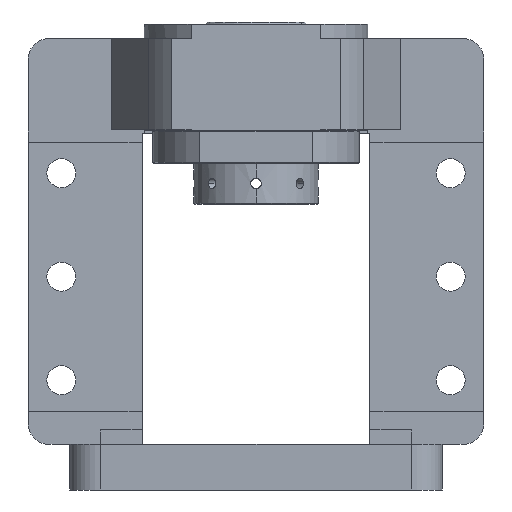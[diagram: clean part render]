
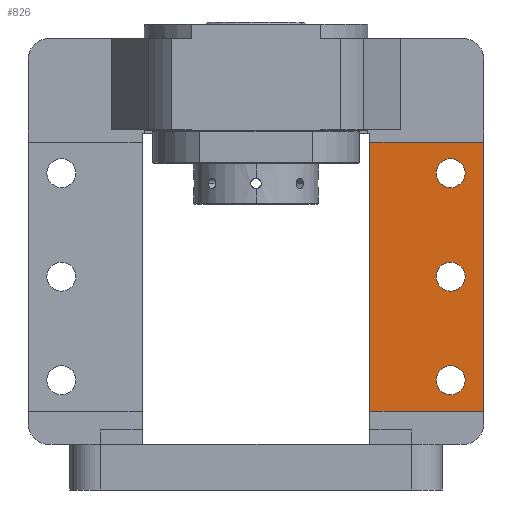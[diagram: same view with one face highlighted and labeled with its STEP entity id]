
A CAD part, front view. The second image highlights one B-rep face of the part: STEP entity #826.
In plain terms, the highlighted planar face has unit normal (0, -1, 0).
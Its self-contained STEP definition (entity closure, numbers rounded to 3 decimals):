
#61 = AXIS2_PLACEMENT_3D ( 'NONE', #20631, #8445, #22655 ) ;
#106 = EDGE_CURVE ( 'NONE', #10738, #21544, #974, .T. ) ;
#455 = CARTESIAN_POINT ( 'NONE',  ( 94., 0., 53. ) ) ;
#826 = ADVANCED_FACE ( 'NONE', ( #20380, #4146, #9540, #25128 ), #12662, .T. ) ;
#910 = ORIENTED_EDGE ( 'NONE', *, *, #106, .F. ) ;
#974 = CIRCLE ( 'NONE', #8853, 7. ) ;
#2500 = DIRECTION ( 'NONE',  ( 0., 0., -1. ) ) ;
#2602 = CIRCLE ( 'NONE', #22127, 7. ) ;
#2803 = VERTEX_POINT ( 'NONE', #14256 ) ;
#3205 = CARTESIAN_POINT ( 'NONE',  ( 55., 0., 168. ) ) ;
#3632 = CARTESIAN_POINT ( 'NONE',  ( 110., 0., 38. ) ) ;
#4146 = FACE_BOUND ( 'NONE', #11129, .T. ) ;
#4270 = CIRCLE ( 'NONE', #6314, 7. ) ;
#4284 = LINE ( 'NONE', #12100, #25269 ) ;
#4674 = EDGE_CURVE ( 'NONE', #21755, #2803, #6911, .T. ) ;
#5221 = DIRECTION ( 'NONE',  ( 0., -1., 0. ) ) ;
#5290 = AXIS2_PLACEMENT_3D ( 'NONE', #5679, #19906, #7712 ) ;
#5679 = CARTESIAN_POINT ( 'NONE',  ( 94., 0., 53. ) ) ;
#5763 = CARTESIAN_POINT ( 'NONE',  ( 94., 0., 103. ) ) ;
#6314 = AXIS2_PLACEMENT_3D ( 'NONE', #10873, #25107, #12922 ) ;
#6883 = EDGE_CURVE ( 'NONE', #14635, #26159, #13555, .T. ) ;
#6911 = CIRCLE ( 'NONE', #14820, 7. ) ;
#6918 = ORIENTED_EDGE ( 'NONE', *, *, #4674, .F. ) ;
#7515 = CIRCLE ( 'NONE', #5290, 7. ) ;
#7712 = DIRECTION ( 'NONE',  ( 0., 0., -1. ) ) ;
#7792 = DIRECTION ( 'NONE',  ( 0., 0., -1. ) ) ;
#7796 = EDGE_CURVE ( 'NONE', #16534, #9418, #4270, .T. ) ;
#8158 = VECTOR ( 'NONE', #20196, 1000. ) ;
#8319 = LINE ( 'NONE', #17261, #18503 ) ;
#8445 = DIRECTION ( 'NONE',  ( 0., -1., 0. ) ) ;
#8589 = CARTESIAN_POINT ( 'NONE',  ( 110., 0., 225. ) ) ;
#8853 = AXIS2_PLACEMENT_3D ( 'NONE', #455, #14689, #2500 ) ;
#8896 = CARTESIAN_POINT ( 'NONE',  ( 94., 0., 60. ) ) ;
#9418 = VERTEX_POINT ( 'NONE', #24425 ) ;
#9472 = CARTESIAN_POINT ( 'NONE',  ( 55., 0., 38. ) ) ;
#9540 = FACE_BOUND ( 'NONE', #17005, .T. ) ;
#10738 = VERTEX_POINT ( 'NONE', #8896 ) ;
#10784 = ORIENTED_EDGE ( 'NONE', *, *, #12832, .T. ) ;
#10873 = CARTESIAN_POINT ( 'NONE',  ( 94., 0., 153. ) ) ;
#11129 = EDGE_LOOP ( 'NONE', ( #13212, #910 ) ) ;
#11374 = ORIENTED_EDGE ( 'NONE', *, *, #16104, .T. ) ;
#12022 = VERTEX_POINT ( 'NONE', #9472 ) ;
#12100 = CARTESIAN_POINT ( 'NONE',  ( 110., 0., 168. ) ) ;
#12302 = CARTESIAN_POINT ( 'NONE',  ( 94., 0., 110. ) ) ;
#12476 = DIRECTION ( 'NONE',  ( 0., 0., -1. ) ) ;
#12662 = PLANE ( 'NONE',  #19259 ) ;
#12832 = EDGE_CURVE ( 'NONE', #12022, #26159, #8319, .T. ) ;
#12922 = DIRECTION ( 'NONE',  ( 0., 0., -1. ) ) ;
#12980 = VECTOR ( 'NONE', #14375, 1000. ) ;
#13212 = ORIENTED_EDGE ( 'NONE', *, *, #18555, .F. ) ;
#13252 = ORIENTED_EDGE ( 'NONE', *, *, #7796, .F. ) ;
#13555 = LINE ( 'NONE', #15477, #8158 ) ;
#14229 = EDGE_CURVE ( 'NONE', #9418, #16534, #26078, .T. ) ;
#14256 = CARTESIAN_POINT ( 'NONE',  ( 94., 0., 96. ) ) ;
#14261 = ORIENTED_EDGE ( 'NONE', *, *, #22944, .T. ) ;
#14307 = ORIENTED_EDGE ( 'NONE', *, *, #6883, .F. ) ;
#14375 = DIRECTION ( 'NONE',  ( 0., 0., -1. ) ) ;
#14635 = VERTEX_POINT ( 'NONE', #15193 ) ;
#14689 = DIRECTION ( 'NONE',  ( 0., -1., 0. ) ) ;
#14820 = AXIS2_PLACEMENT_3D ( 'NONE', #5763, #19986, #7792 ) ;
#15170 = ORIENTED_EDGE ( 'NONE', *, *, #26115, .F. ) ;
#15193 = CARTESIAN_POINT ( 'NONE',  ( 110., 0., 168. ) ) ;
#15477 = CARTESIAN_POINT ( 'NONE',  ( 110., 0., 225. ) ) ;
#16104 = EDGE_CURVE ( 'NONE', #24914, #12022, #18407, .T. ) ;
#16534 = VERTEX_POINT ( 'NONE', #25350 ) ;
#17005 = EDGE_LOOP ( 'NONE', ( #15170, #6918 ) ) ;
#17195 = CARTESIAN_POINT ( 'NONE',  ( 94., 0., 46. ) ) ;
#17261 = CARTESIAN_POINT ( 'NONE',  ( 110., 0., 38. ) ) ;
#17407 = CARTESIAN_POINT ( 'NONE',  ( 94., 0., 103. ) ) ;
#17416 = DIRECTION ( 'NONE',  ( -1., 0., 0. ) ) ;
#18407 = LINE ( 'NONE', #20423, #12980 ) ;
#18503 = VECTOR ( 'NONE', #19314, 1000. ) ;
#18555 = EDGE_CURVE ( 'NONE', #21544, #10738, #7515, .T. ) ;
#19259 = AXIS2_PLACEMENT_3D ( 'NONE', #8589, #20766, #12476 ) ;
#19314 = DIRECTION ( 'NONE',  ( 1., 0., 0. ) ) ;
#19464 = DIRECTION ( 'NONE',  ( 0., 0., -1. ) ) ;
#19525 = ORIENTED_EDGE ( 'NONE', *, *, #14229, .F. ) ;
#19906 = DIRECTION ( 'NONE',  ( 0., -1., 0. ) ) ;
#19986 = DIRECTION ( 'NONE',  ( 0., -1., 0. ) ) ;
#20088 = EDGE_LOOP ( 'NONE', ( #13252, #19525 ) ) ;
#20196 = DIRECTION ( 'NONE',  ( 0., 0., -1. ) ) ;
#20380 = FACE_BOUND ( 'NONE', #20088, .T. ) ;
#20423 = CARTESIAN_POINT ( 'NONE',  ( 55., 0., 225. ) ) ;
#20631 = CARTESIAN_POINT ( 'NONE',  ( 94., 0., 153. ) ) ;
#20766 = DIRECTION ( 'NONE',  ( 0., -1., 0. ) ) ;
#21212 = EDGE_LOOP ( 'NONE', ( #14307, #14261, #11374, #10784 ) ) ;
#21544 = VERTEX_POINT ( 'NONE', #17195 ) ;
#21755 = VERTEX_POINT ( 'NONE', #12302 ) ;
#22127 = AXIS2_PLACEMENT_3D ( 'NONE', #17407, #5221, #19464 ) ;
#22655 = DIRECTION ( 'NONE',  ( 0., 0., -1. ) ) ;
#22944 = EDGE_CURVE ( 'NONE', #14635, #24914, #4284, .T. ) ;
#24425 = CARTESIAN_POINT ( 'NONE',  ( 94., 0., 160. ) ) ;
#24914 = VERTEX_POINT ( 'NONE', #3205 ) ;
#25107 = DIRECTION ( 'NONE',  ( 0., -1., 0. ) ) ;
#25128 = FACE_OUTER_BOUND ( 'NONE', #21212, .T. ) ;
#25269 = VECTOR ( 'NONE', #17416, 1000. ) ;
#25350 = CARTESIAN_POINT ( 'NONE',  ( 94., 0., 146. ) ) ;
#26078 = CIRCLE ( 'NONE', #61, 7. ) ;
#26115 = EDGE_CURVE ( 'NONE', #2803, #21755, #2602, .T. ) ;
#26159 = VERTEX_POINT ( 'NONE', #3632 ) ;
